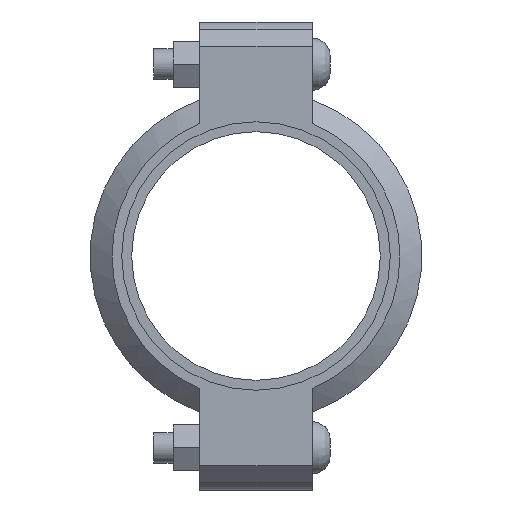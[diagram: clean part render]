
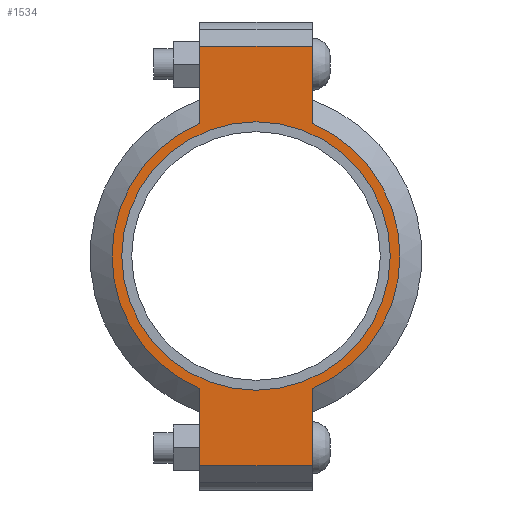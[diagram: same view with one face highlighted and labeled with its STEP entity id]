
A CAD part, left-side view. The second image highlights one B-rep face of the part: STEP entity #1534.
In plain terms, the highlighted planar face has unit normal (-1, 0, 0) as drawn and (0, 0, 1) by its records, which use the part's own axes.
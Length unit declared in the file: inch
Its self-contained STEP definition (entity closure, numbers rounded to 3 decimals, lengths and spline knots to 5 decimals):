
#158=LINE('',#2686,#251);
#166=LINE('',#2722,#259);
#173=LINE('',#2743,#266);
#182=LINE('',#2775,#275);
#183=LINE('',#2779,#276);
#184=LINE('',#2781,#277);
#251=VECTOR('',#2194,0.3937);
#259=VECTOR('',#2210,0.3937);
#266=VECTOR('',#2229,0.3937);
#275=VECTOR('',#2254,0.3937);
#276=VECTOR('',#2259,0.3937);
#277=VECTOR('',#2260,0.3937);
#333=FACE_BOUND('',#511,.T.);
#405=FACE_OUTER_BOUND('',#510,.T.);
#510=EDGE_LOOP('',(#1275,#1276,#1277,#1278,#1279,#1280,#1281,#1282));
#511=EDGE_LOOP('',(#1283));
#583=CIRCLE('',#1762,2.75);
#609=CIRCLE('',#1821,2.95);
#610=CIRCLE('',#1822,2.95);
#675=VERTEX_POINT('',#2502);
#718=VERTEX_POINT('',#2683);
#719=VERTEX_POINT('',#2685);
#730=VERTEX_POINT('',#2717);
#731=VERTEX_POINT('',#2721);
#738=VERTEX_POINT('',#2740);
#739=VERTEX_POINT('',#2742);
#749=VERTEX_POINT('',#2778);
#750=VERTEX_POINT('',#2780);
#831=EDGE_CURVE('',#675,#675,#583,.T.);
#892=EDGE_CURVE('',#719,#718,#158,.T.);
#906=EDGE_CURVE('',#731,#730,#166,.T.);
#916=EDGE_CURVE('',#739,#738,#173,.T.);
#931=EDGE_CURVE('',#731,#718,#182,.T.);
#932=EDGE_CURVE('',#730,#739,#609,.T.);
#933=EDGE_CURVE('',#749,#738,#183,.T.);
#934=EDGE_CURVE('',#749,#750,#184,.T.);
#935=EDGE_CURVE('',#750,#719,#610,.T.);
#1275=ORIENTED_EDGE('',*,*,#931,.F.);
#1276=ORIENTED_EDGE('',*,*,#906,.T.);
#1277=ORIENTED_EDGE('',*,*,#932,.T.);
#1278=ORIENTED_EDGE('',*,*,#916,.T.);
#1279=ORIENTED_EDGE('',*,*,#933,.F.);
#1280=ORIENTED_EDGE('',*,*,#934,.T.);
#1281=ORIENTED_EDGE('',*,*,#935,.T.);
#1282=ORIENTED_EDGE('',*,*,#892,.T.);
#1283=ORIENTED_EDGE('',*,*,#831,.T.);
#1376=PLANE('',#1820);
#1534=ADVANCED_FACE('',(#405,#333),#1376,.T.);
#1762=AXIS2_PLACEMENT_3D('',#2504,#2070,#2071);
#1820=AXIS2_PLACEMENT_3D('',#2776,#2255,#2256);
#1821=AXIS2_PLACEMENT_3D('',#2777,#2257,#2258);
#1822=AXIS2_PLACEMENT_3D('',#2782,#2261,#2262);
#2070=DIRECTION('center_axis',(0.,0.,-1.));
#2071=DIRECTION('ref_axis',(1.,0.,0.));
#2194=DIRECTION('',(1.,0.,0.));
#2210=DIRECTION('',(-1.,0.,0.));
#2229=DIRECTION('',(-1.,0.,0.));
#2254=DIRECTION('',(0.,-1.,0.));
#2255=DIRECTION('center_axis',(0.,0.,1.));
#2256=DIRECTION('ref_axis',(-1.,0.,0.));
#2257=DIRECTION('center_axis',(0.,0.,1.));
#2258=DIRECTION('ref_axis',(1.,0.,0.));
#2259=DIRECTION('',(0.,1.,0.));
#2260=DIRECTION('',(1.,0.,0.));
#2261=DIRECTION('center_axis',(0.,0.,1.));
#2262=DIRECTION('ref_axis',(1.,0.,0.));
#2502=CARTESIAN_POINT('',(-2.75,0.,1.065));
#2504=CARTESIAN_POINT('Origin',(0.,0.,1.065));
#2683=CARTESIAN_POINT('',(4.295,-1.15,1.065));
#2685=CARTESIAN_POINT('',(2.71662,-1.15,1.065));
#2686=CARTESIAN_POINT('',(4.795,-1.15,1.065));
#2717=CARTESIAN_POINT('',(2.71662,1.15,1.065));
#2721=CARTESIAN_POINT('',(4.295,1.15,1.065));
#2722=CARTESIAN_POINT('',(-4.795,1.15,1.065));
#2740=CARTESIAN_POINT('',(-4.295,1.15,1.065));
#2742=CARTESIAN_POINT('',(-2.71662,1.15,1.065));
#2743=CARTESIAN_POINT('',(-4.795,1.15,1.065));
#2775=CARTESIAN_POINT('',(4.295,-0.575,1.065));
#2776=CARTESIAN_POINT('Origin',(0.,0.,
1.065));
#2777=CARTESIAN_POINT('Origin',(0.,0.,1.065));
#2778=CARTESIAN_POINT('',(-4.295,-1.15,1.065));
#2779=CARTESIAN_POINT('',(-4.295,0.575,1.065));
#2780=CARTESIAN_POINT('',(-2.71662,-1.15,1.065));
#2781=CARTESIAN_POINT('',(4.795,-1.15,1.065));
#2782=CARTESIAN_POINT('Origin',(0.,0.,1.065));
